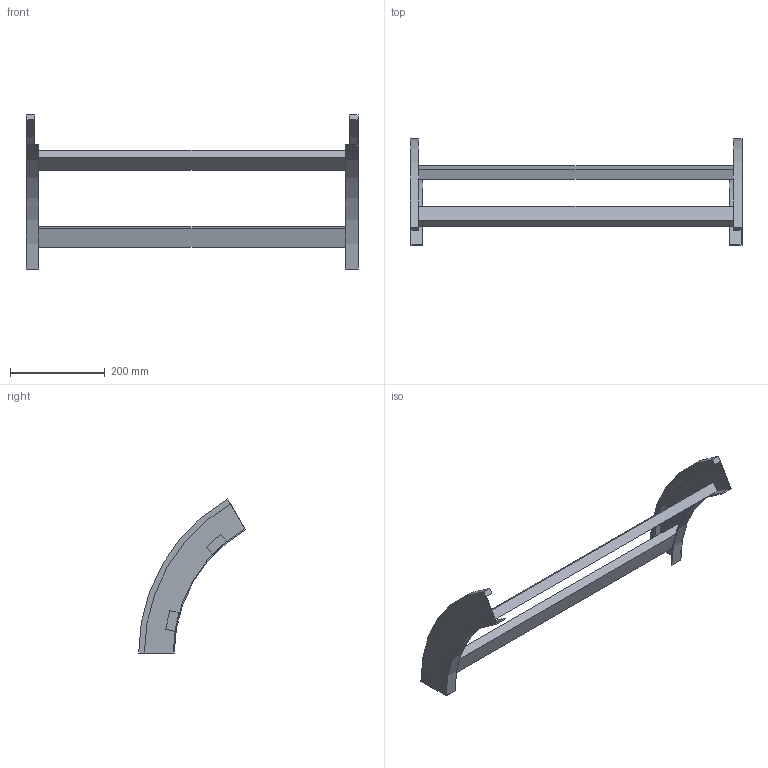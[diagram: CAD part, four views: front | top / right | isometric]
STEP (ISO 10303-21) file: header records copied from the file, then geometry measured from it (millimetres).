
FILE_DESCRIPTION (( 'STEP AP214' ), '1' );
FILE_NAME ('B2_41B3C700.step', '2025-02-21T15:00:46', ( '' ), ( '' ), 'SwSTEP 2.0', 'SolidWorks 2023', '' );
FILE_SCHEMA (( 'AUTOMOTIVE_DESIGN' ));
Length unit declared in the file: millimetre
Products named in the file (3): TRAVERSINO_700; B2_41B3C700; B2_LONGH.DISCESA_60°_H75_R300
Assembly tree (4 placements, depth 2):
  B2_41B3C700
    B2_LONGH.DISCESA_60°_H75_R300  x2
    TRAVERSINO_700  x2
Bounding box: 700 x 225 x 324.76 mm (x, y, z)
Volume: 1413453.1 mm3; surface area: 338347.4 mm2
Topology: 4 solids, 4 shells, 32 faces, 72 edges, 48 vertices
Faces by surface type: plane 24, cylinder 8
Entity records: 552 total; most frequent: DIRECTION 90, CARTESIAN_POINT 83, ORIENTED_EDGE 72, EDGE_CURVE 36, AXIS2_PLACEMENT_3D 31, LINE 28, VECTOR 28, VERTEX_POINT 24
